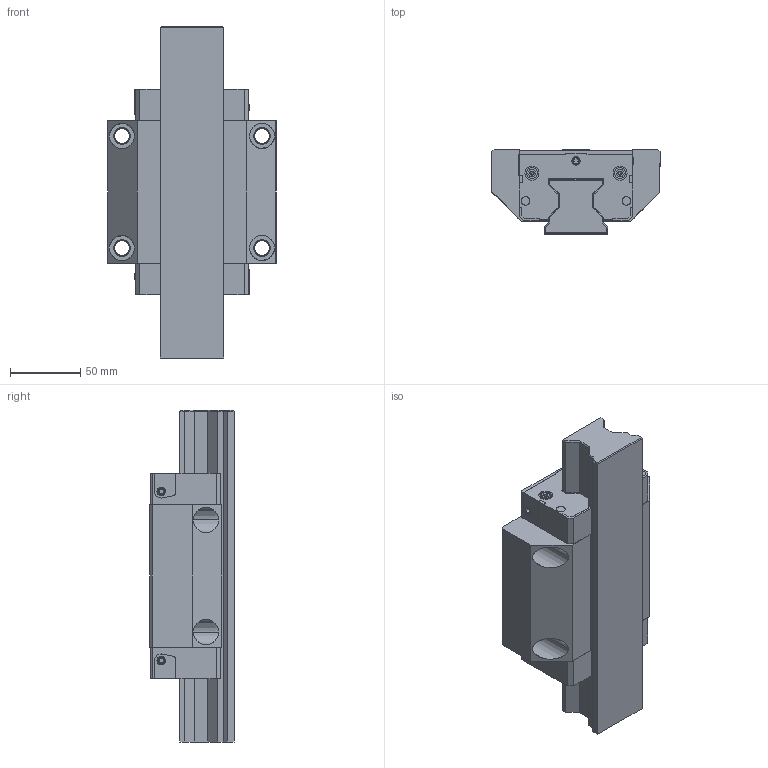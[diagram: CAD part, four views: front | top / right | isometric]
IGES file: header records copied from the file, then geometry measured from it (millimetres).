
Start section: 3D InterOp IGES (v. 2019 1.0.2), Spatial Corp. Copyright (c) 1999-2017.
Global section: file name: R1851_size45.igs; native system: Spatial Corp.; preprocessor: 3D InterOp GENERIC/IGES 3.0; author: Noname; organization: Noname; date: 20220630.112915; units: millimetre
Bounding box: 120 x 60 x 237 mm (x, y, z)
Surface area: 149245.8 mm2 (no closed solid volume)
Topology: 0 solids, 0 shells, 536 faces, 2828 edges, 2808 vertices
Faces by surface type: extrusion 336, revolution 200
